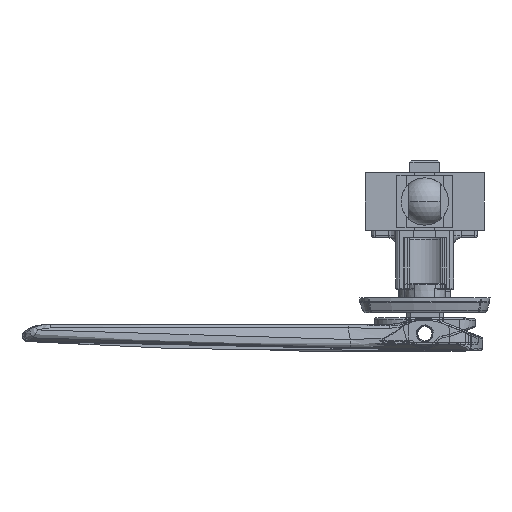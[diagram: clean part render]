
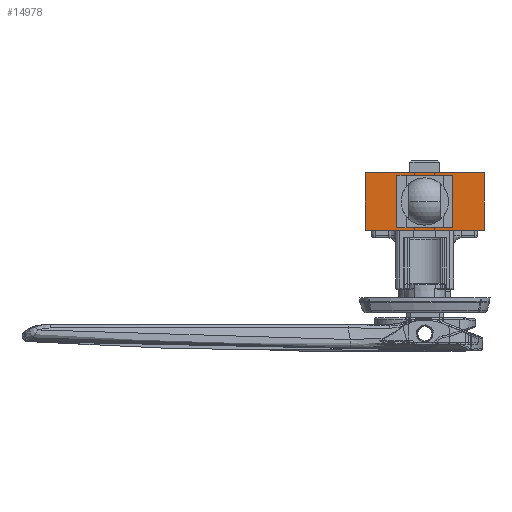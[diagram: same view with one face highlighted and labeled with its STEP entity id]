
A CAD part, front view. The second image highlights one B-rep face of the part: STEP entity #14978.
In plain terms, the highlighted planar face has unit normal (0, -1, 0).
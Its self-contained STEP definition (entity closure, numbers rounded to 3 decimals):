
#232 = VECTOR ( 'NONE', #3827, 1000. ) ;
#347 = FACE_OUTER_BOUND ( 'NONE', #30476, .T. ) ;
#773 = ORIENTED_EDGE ( 'NONE', *, *, #2731, .T. ) ;
#1428 = DIRECTION ( 'NONE',  ( 1., 0., 0. ) ) ;
#2001 = VECTOR ( 'NONE', #7587, 1000. ) ;
#2508 = ORIENTED_EDGE ( 'NONE', *, *, #28645, .F. ) ;
#2731 = EDGE_CURVE ( 'NONE', #17908, #5380, #19488, .T. ) ;
#3254 = CARTESIAN_POINT ( 'NONE',  ( 7., -199.25, -6.25 ) ) ;
#3505 = CARTESIAN_POINT ( 'NONE',  ( -7., -199.25, 6.25 ) ) ;
#3827 = DIRECTION ( 'NONE',  ( -1., 0., 0. ) ) ;
#3967 = VECTOR ( 'NONE', #5592, 1000. ) ;
#4546 = LINE ( 'NONE', #30238, #25251 ) ;
#4554 = VECTOR ( 'NONE', #22700, 1000. ) ;
#5207 = EDGE_CURVE ( 'NONE', #5380, #9992, #25146, .T. ) ;
#5229 = AXIS2_PLACEMENT_3D ( 'NONE', #5272, #28069, #8204 ) ;
#5272 = CARTESIAN_POINT ( 'NONE',  ( -16., -199.25, 7.75 ) ) ;
#5380 = VERTEX_POINT ( 'NONE', #8555 ) ;
#5592 = DIRECTION ( 'NONE',  ( 0., 0., -1. ) ) ;
#5898 = ORIENTED_EDGE ( 'NONE', *, *, #21789, .F. ) ;
#5984 = VERTEX_POINT ( 'NONE', #3254 ) ;
#6132 = ORIENTED_EDGE ( 'NONE', *, *, #7602, .F. ) ;
#6373 = CARTESIAN_POINT ( 'NONE',  ( -7., -199.25, -6.25 ) ) ;
#7587 = DIRECTION ( 'NONE',  ( 0., 0., -1. ) ) ;
#7602 = EDGE_CURVE ( 'NONE', #8482, #5984, #20067, .T. ) ;
#8041 = FACE_BOUND ( 'NONE', #22345, .T. ) ;
#8184 = VERTEX_POINT ( 'NONE', #3505 ) ;
#8204 = DIRECTION ( 'NONE',  ( 0., 0., 1. ) ) ;
#8482 = VERTEX_POINT ( 'NONE', #6373 ) ;
#8510 = ORIENTED_EDGE ( 'NONE', *, *, #18978, .F. ) ;
#8555 = CARTESIAN_POINT ( 'NONE',  ( -16., -199.25, -7.75 ) ) ;
#9602 = CARTESIAN_POINT ( 'NONE',  ( 16., -199.25, -7.75 ) ) ;
#9992 = VERTEX_POINT ( 'NONE', #9602 ) ;
#10128 = CARTESIAN_POINT ( 'NONE',  ( -16., -199.25, 7.75 ) ) ;
#11201 = LINE ( 'NONE', #23190, #232 ) ;
#11600 = VERTEX_POINT ( 'NONE', #32416 ) ;
#11843 = ORIENTED_EDGE ( 'NONE', *, *, #5207, .T. ) ;
#14978 = ADVANCED_FACE ( 'NONE', ( #8041, #347 ), #22492, .F. ) ;
#15436 = LINE ( 'NONE', #18544, #3967 ) ;
#17662 = VERTEX_POINT ( 'NONE', #22812 ) ;
#17886 = VECTOR ( 'NONE', #21947, 1000. ) ;
#17908 = VERTEX_POINT ( 'NONE', #18535 ) ;
#17913 = DIRECTION ( 'NONE',  ( 1., 0., 0. ) ) ;
#18535 = CARTESIAN_POINT ( 'NONE',  ( -16., -199.25, 7.75 ) ) ;
#18544 = CARTESIAN_POINT ( 'NONE',  ( -7., -199.25, -6.25 ) ) ;
#18978 = EDGE_CURVE ( 'NONE', #8184, #8482, #15436, .T. ) ;
#19046 = VECTOR ( 'NONE', #17913, 1000. ) ;
#19488 = LINE ( 'NONE', #10128, #17886 ) ;
#20067 = LINE ( 'NONE', #30101, #4554 ) ;
#20416 = VECTOR ( 'NONE', #1428, 1000. ) ;
#20539 = DIRECTION ( 'NONE',  ( 0., 0., 1. ) ) ;
#21046 = ORIENTED_EDGE ( 'NONE', *, *, #24608, .F. ) ;
#21789 = EDGE_CURVE ( 'NONE', #11600, #8184, #11201, .T. ) ;
#21947 = DIRECTION ( 'NONE',  ( 0., 0., -1. ) ) ;
#22345 = EDGE_LOOP ( 'NONE', ( #8510, #5898, #2508, #6132 ) ) ;
#22492 = PLANE ( 'NONE',  #5229 ) ;
#22700 = DIRECTION ( 'NONE',  ( 1., 0., 0. ) ) ;
#22812 = CARTESIAN_POINT ( 'NONE',  ( 16., -199.25, 7.75 ) ) ;
#22838 = CARTESIAN_POINT ( 'NONE',  ( -16., -199.25, -7.75 ) ) ;
#23186 = LINE ( 'NONE', #30091, #2001 ) ;
#23190 = CARTESIAN_POINT ( 'NONE',  ( 7., -199.25, 6.25 ) ) ;
#23623 = ORIENTED_EDGE ( 'NONE', *, *, #26376, .F. ) ;
#23908 = CARTESIAN_POINT ( 'NONE',  ( -16., -199.25, 7.75 ) ) ;
#24608 = EDGE_CURVE ( 'NONE', #17662, #9992, #23186, .T. ) ;
#25146 = LINE ( 'NONE', #22838, #19046 ) ;
#25251 = VECTOR ( 'NONE', #20539, 1000. ) ;
#26376 = EDGE_CURVE ( 'NONE', #17908, #17662, #30961, .T. ) ;
#28069 = DIRECTION ( 'NONE',  ( 0., 1., 0. ) ) ;
#28645 = EDGE_CURVE ( 'NONE', #5984, #11600, #4546, .T. ) ;
#30091 = CARTESIAN_POINT ( 'NONE',  ( 16., -199.25, 7.75 ) ) ;
#30101 = CARTESIAN_POINT ( 'NONE',  ( -7., -199.25, -6.25 ) ) ;
#30238 = CARTESIAN_POINT ( 'NONE',  ( 7., -199.25, 6.25 ) ) ;
#30476 = EDGE_LOOP ( 'NONE', ( #11843, #21046, #23623, #773 ) ) ;
#30961 = LINE ( 'NONE', #23908, #20416 ) ;
#32416 = CARTESIAN_POINT ( 'NONE',  ( 7., -199.25, 6.25 ) ) ;
